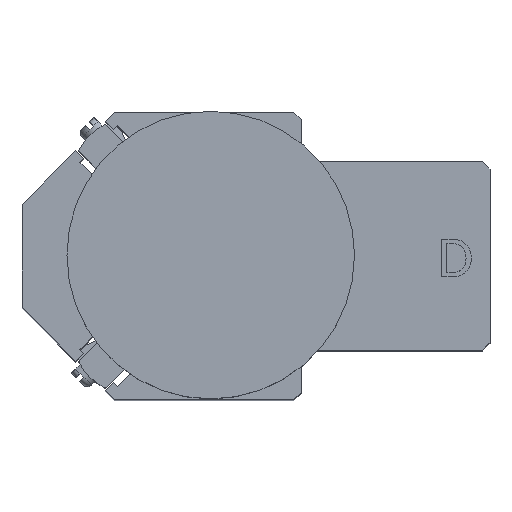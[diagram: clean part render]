
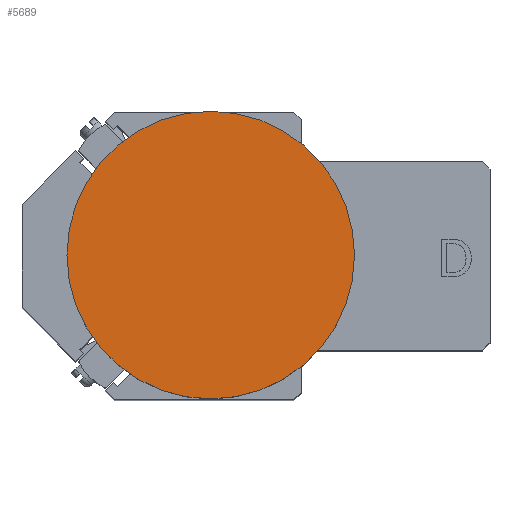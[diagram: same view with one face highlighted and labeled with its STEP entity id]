
A CAD part, top view. The second image highlights one B-rep face of the part: STEP entity #5689.
In plain terms, the highlighted planar face has unit normal (0, 0, 1) as drawn and (1, 0, 0) by its records, which use the part's own axes.
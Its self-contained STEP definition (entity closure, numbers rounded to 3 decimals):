
#499=PLANE('',#6499);
#786=FACE_OUTER_BOUND('',#1126,.T.);
#1126=EDGE_LOOP('',(#5274,#5275));
#2378=CIRCLE('',#6500,19.05);
#2379=CIRCLE('',#6501,19.05);
#2923=VERTEX_POINT('',#9972);
#2924=VERTEX_POINT('',#9973);
#3714=EDGE_CURVE('',#2923,#2924,#2378,.T.);
#3715=EDGE_CURVE('',#2924,#2923,#2379,.T.);
#5274=ORIENTED_EDGE('',*,*,#3714,.F.);
#5275=ORIENTED_EDGE('',*,*,#3715,.F.);
#5689=ADVANCED_FACE('',(#786),#499,.T.);
#6499=AXIS2_PLACEMENT_3D('',#9971,#8084,#8085);
#6500=AXIS2_PLACEMENT_3D('',#9974,#8086,#8087);
#6501=AXIS2_PLACEMENT_3D('',#9975,#8088,#8089);
#8084=DIRECTION('center_axis',(1.,0.,0.));
#8085=DIRECTION('ref_axis',(0.,0.,-1.));
#8086=DIRECTION('center_axis',(-1.,0.,0.));
#8087=DIRECTION('ref_axis',(0.,-1.,0.));
#8088=DIRECTION('center_axis',(-1.,0.,0.));
#8089=DIRECTION('ref_axis',(0.,-1.,0.));
#9971=CARTESIAN_POINT('Origin',(13.,-9.525,0.));
#9972=CARTESIAN_POINT('',(13.,-19.05,0.));
#9973=CARTESIAN_POINT('',(13.,19.05,0.));
#9974=CARTESIAN_POINT('Origin',(13.,0.,0.));
#9975=CARTESIAN_POINT('Origin',(13.,0.,0.));
